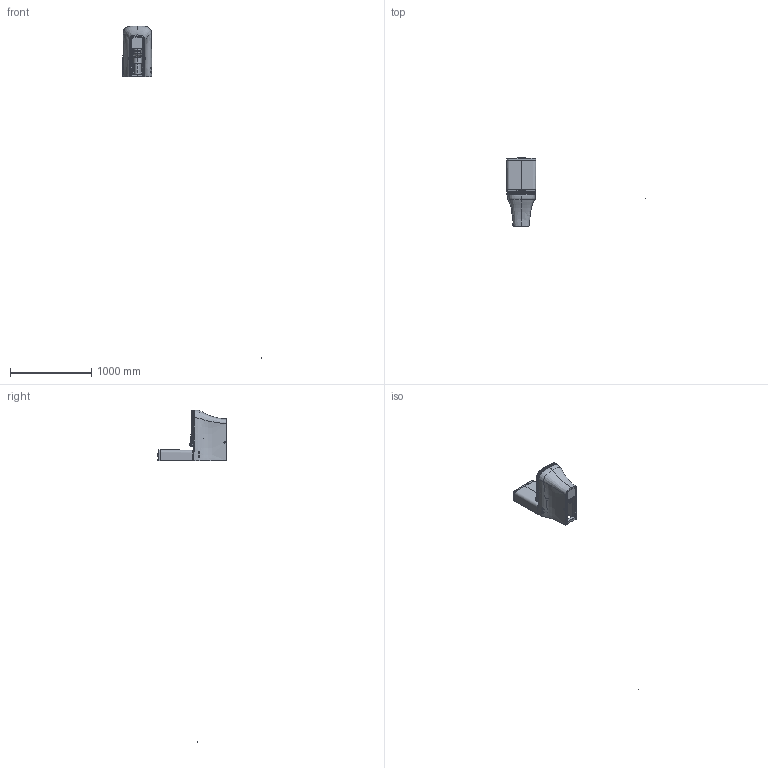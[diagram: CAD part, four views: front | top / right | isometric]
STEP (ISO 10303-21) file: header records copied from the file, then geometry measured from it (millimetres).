
FILE_DESCRIPTION (( 'STEP AP203' ), '1' );
FILE_NAME ('LY360-00CB00E-0000+LY410-00CB00E-0000+KC2903.01.0000E.STEP', '2022-04-12T10:23:48', ( '' ), ( '' ), 'SwSTEP 2.0', 'SolidWorks 2021', '' );
FILE_SCHEMA (( 'CONFIG_CONTROL_DESIGN' ));
Products named in the file (1): LY360-00CB00E-0000+LY410-00CB00E-0000+KC2903.01.0000E
Bounding box: 1704.8 x 846.2 x 4090.85 mm (x, y, z)
Surface area: 3152173.8 mm2 (no closed solid volume)
Topology: 0 solids, 32 shells, 2395 faces, 5877 edges, 3521 vertices
Faces by surface type: cylinder 929, bspline 846, plane 359, torus 108, sphere 103, cone 50
Entity records: 296017 total; most frequent: CARTESIAN_POINT 253651, ORIENTED_EDGE 11531, EDGE_CURVE 5777, DIRECTION 4545, B_SPLINE_CURVE_WITH_KNOTS 4240, VERTEX_POINT 3515, EDGE_LOOP 2508, FACE_OUTER_BOUND 2395
